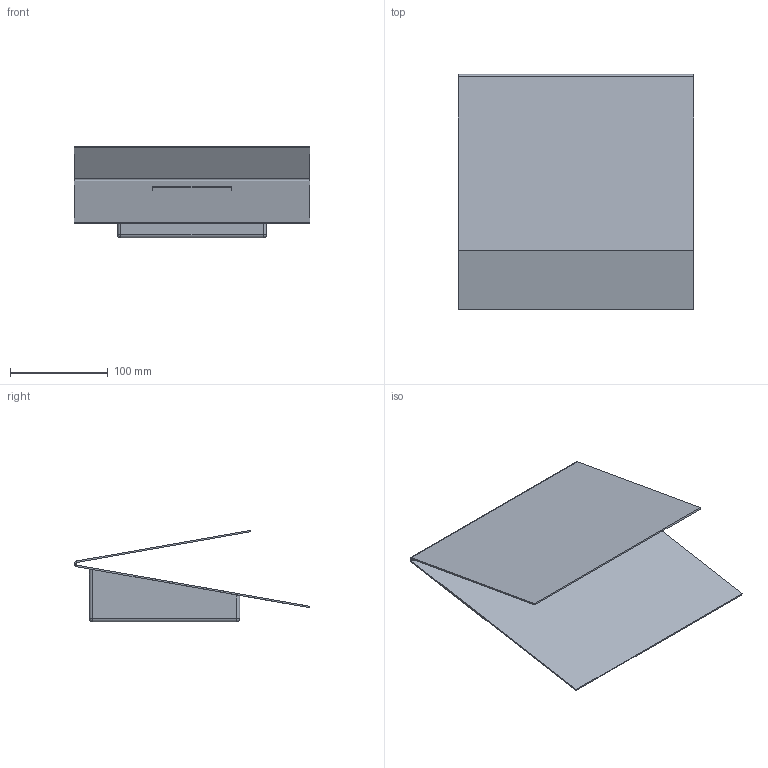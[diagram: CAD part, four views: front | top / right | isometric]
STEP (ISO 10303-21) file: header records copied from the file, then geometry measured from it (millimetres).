
FILE_DESCRIPTION(/* description */ (''),/* implementation_level */ '2;1');
FILE_NAME(/* name */ 'C:\Users\Giulia\Desktop\1716 - FOLDER.stp',/* time_stamp */ '2015-04-23T16:35:44+02:00',/* author */ ('Giulia'),/* organization */ (''),/* preprocessor_version */ 'ST-DEVELOPER v15.6',/* originating_system */ 'Autodesk Inventor 2015',/* authorisation */ '');
FILE_SCHEMA (('AUTOMOTIVE_DESIGN { 1 0 10303 214 3 1 1 }'));
Length unit declared in the file: centimetre
Products named in the file (1): 1716 - FOLDER
Bounding box: 240 x 240 x 93.31 mm (x, y, z)
Volume: 1088724.6 mm3; surface area: 230746.8 mm2
Topology: 1 solids, 1 shells, 44 faces, 100 edges, 60 vertices
Faces by surface type: plane 22, cylinder 18, sphere 4
Entity records: 1244 total; most frequent: DIRECTION 226, CARTESIAN_POINT 205, ORIENTED_EDGE 200, EDGE_CURVE 100, AXIS2_PLACEMENT_3D 81, LINE 64, VECTOR 64, VERTEX_POINT 60
